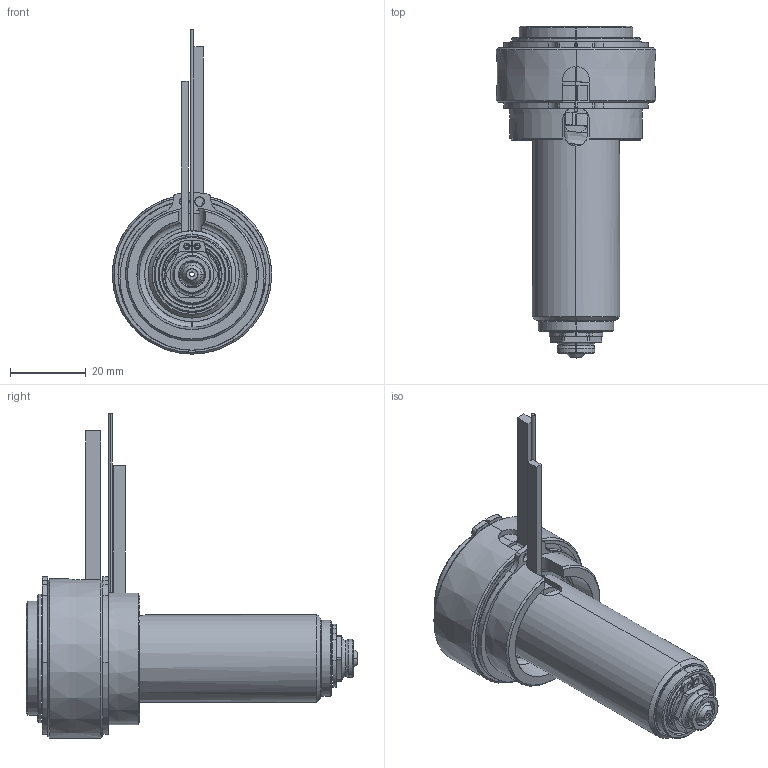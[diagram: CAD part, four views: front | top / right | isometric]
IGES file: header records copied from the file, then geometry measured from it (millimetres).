
Start section: SolidWorks IGES file using analytic representation for surfaces
Global section: file name: C:\Documents and Settings\ws-20\Desktop\TEM\UGER3551-M-A-1 [Øb-1.30  ØC-6.0].IGS; native system: SolidWorks 2012; preprocessor: SolidWorks 2012; author: ws-20; date: 120410.094102; units: millimetre
Bounding box: 42 x 87.4 x 85.4 mm (x, y, z)
Surface area: 30328.5 mm2 (no closed solid volume)
Topology: 0 solids, 0 shells, 203 faces, 3370 edges, 3370 vertices
Faces by surface type: revolution 130, bspline 73
